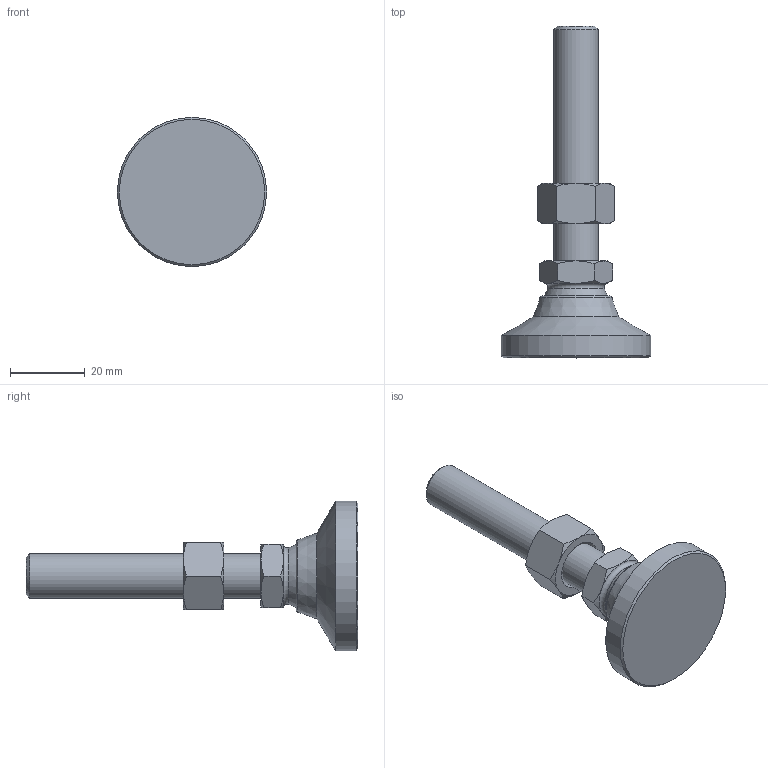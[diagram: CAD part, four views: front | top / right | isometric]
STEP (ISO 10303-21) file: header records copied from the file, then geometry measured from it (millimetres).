
FILE_DESCRIPTION( ( 'STEP AP214' ), ' ' );
FILE_NAME( 'O:/ganter_2015/teil_2/2_5/gn343_2/gn343_2_os/Levelling foot with threaded stud GN 343.2-40-M12-63-OS-(0).stp', '2015-10-26T09:07:26', ( '' ), ( '' ), ' ', 'PARTsolutions', ' ' );
FILE_SCHEMA( ( 'AUTOMOTIVE_DESIGN { 1 0 10303 214 1 1 1 1 }' ) );
Length unit declared in the file: millimetre
Products named in the file (4): Levelling foot with threaded stud GN 343.2-40-M12-63-OS-(0); _Levelling foot with threaded stud GN 343.2-40-M12-63-OS-(0)_foot; _Levelling foot with threaded stud GN 343.2-40-M12-63-OS-(0)_screw; _Stainless Steel-Levelling feet GN 343.2-40-M12-63-OS-(0)_nut
Assembly tree (3 placements, depth 2):
  Levelling foot with threaded stud GN 343.2-40-M12-63-OS-(0)
    _Levelling foot with threaded stud GN 343.2-40-M12-63-OS-(0)_foot
    _Levelling foot with threaded stud GN 343.2-40-M12-63-OS-(0)_screw
    _Stainless Steel-Levelling feet GN 343.2-40-M12-63-OS-(0)_nut
Bounding box: 40 x 89 x 40 mm (x, y, z)
Volume: 24818.2 mm3; surface area: 9129.9 mm2
Topology: 3 solids, 3 shells, 55 faces, 116 edges, 67 vertices
Faces by surface type: cone 30, plane 18, cylinder 3, torus 2, sphere 2
Full cylindrical faces by diameter (mm): 10.106 x1, 12 x1, 40 x1
Entity records: 2038 total; most frequent: CARTESIAN_POINT 495, DIRECTION 208, ORIENTED_EDGE 198, EDGE_CURVE 99, AXIS2_PLACEMENT_3D 98, EDGE_LOOP 70, VERTEX_POINT 65, FACE_OUTER_BOUND 60
